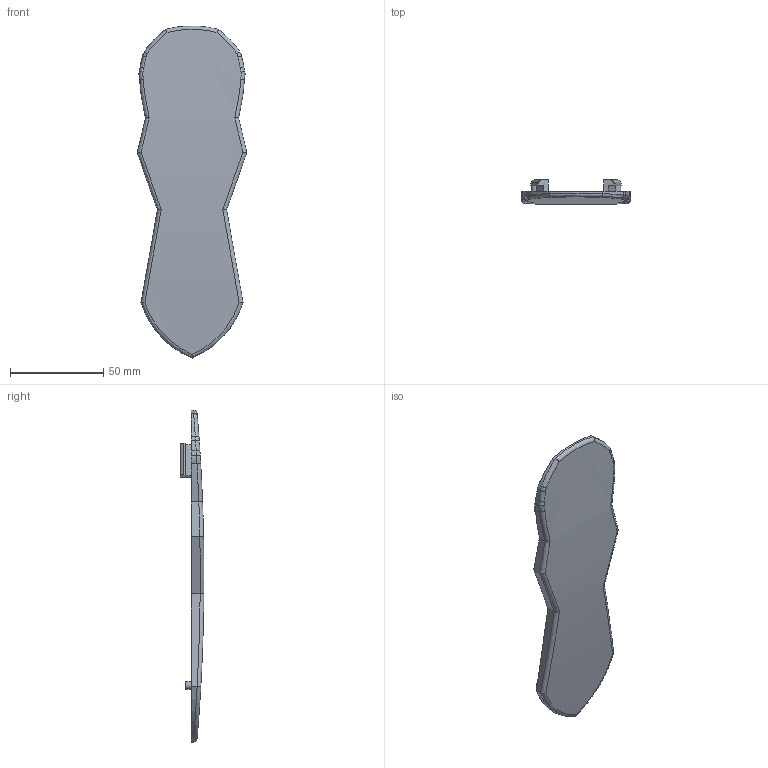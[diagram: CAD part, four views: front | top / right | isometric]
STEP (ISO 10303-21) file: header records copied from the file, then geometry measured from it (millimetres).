
FILE_DESCRIPTION(/* description */ (''),/* implementation_level */ '2;1');
FILE_NAME(/* name */ 'C:\Users\laura\OneDrive\Documents\_SQA Andrea\Assignment\2023\V1\STEP Files\Drone Bottom.stp',/* time_stamp */ '2022-02-11T17:48:07+00:00',/* author */ ('laura'),/* organization */ (''),/* preprocessor_version */ 'ST-DEVELOPER v18.1',/* originating_system */ 'Autodesk Inventor 2021',/* authorisation */ '');
FILE_SCHEMA (('AUTOMOTIVE_DESIGN { 1 0 10303 214 3 1 1 }'));
Length unit declared in the file: millimetre
Products named in the file (1): Drone Bottom
Bounding box: 58.68 x 12.81 x 177.88 mm (x, y, z)
Volume: 47222.5 mm3; surface area: 19154.8 mm2
Topology: 1 solids, 1 shells, 64 faces, 227 edges, 169 vertices
Faces by surface type: bspline 32, plane 25, cylinder 7
Full cylindrical faces by diameter (mm): 4 x2
Entity records: 6296 total; most frequent: CARTESIAN_POINT 4574, ORIENTED_EDGE 454, EDGE_CURVE 227, DIRECTION 204, VERTEX_POINT 169, B_SPLINE_CURVE_WITH_KNOTS 124, LINE 68, VECTOR 68
